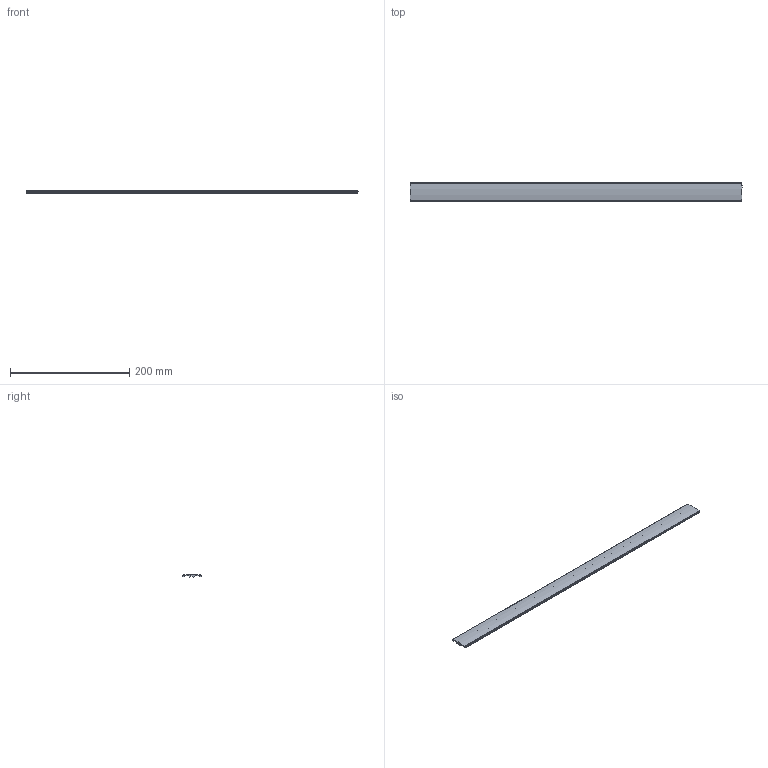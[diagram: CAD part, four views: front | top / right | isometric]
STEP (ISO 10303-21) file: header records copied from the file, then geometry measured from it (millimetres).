
FILE_DESCRIPTION(('CAx-IF Rec.Pracs.---Model Styling and Organization---1.2---2011-12-15','CAx-IF Rec.Pracs.---Geometric and Assembly Validation Properties---4.1---2014-06-16','CAx-IF Rec.Pracs.---PMI Polyline Presentation---2.0---2013-05-24'),'2;1');
FILE_NAME('01VYQ3GY06.stp','2018-07-30T06:13:27+02:00',(''),(''),'STEP Interface 4.1 Sp1 by CT CoreTechnologie','3D_Evolution4.1 Sp1 by CT CoreTechnologie','');
FILE_SCHEMA(('AUTOMOTIVE_DESIGN { 1 0 10303 214 1 1 1 1 }'));
Length unit declared in the file: millimetre
Products named in the file (1): 01V-Q3G-06
Bounding box: 557.6 x 30.9 x 5.29 mm (x, y, z)
Volume: 40621.4 mm3; surface area: 42887.8 mm2
Topology: 1 solids, 1 shells, 27 faces, 75 edges, 50 vertices
Faces by surface type: plane 18, cylinder 9
Entity records: 1100 total; most frequent: CARTESIAN_POINT 153, ORIENTED_EDGE 150, DIRECTION 149, EDGE_CURVE 75, VECTOR 57, LINE 57, VERTEX_POINT 50, AXIS2_PLACEMENT_3D 46
